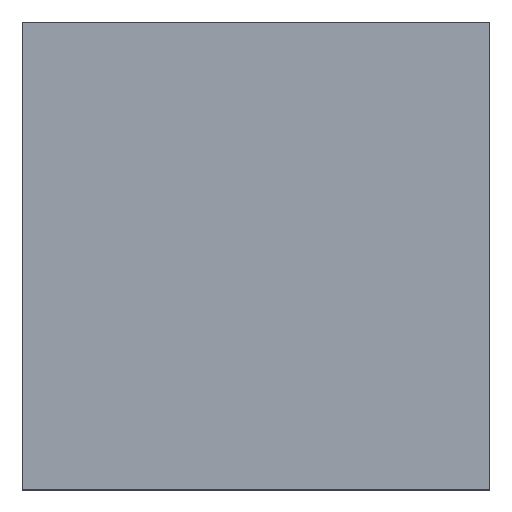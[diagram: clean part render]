
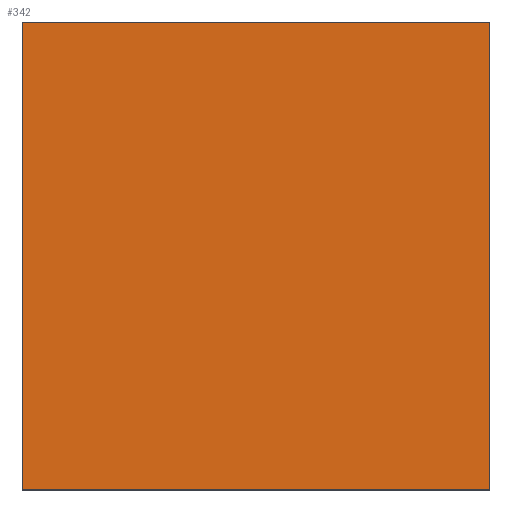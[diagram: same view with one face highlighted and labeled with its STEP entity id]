
A CAD part, top view. The second image highlights one B-rep face of the part: STEP entity #342.
In plain terms, the highlighted planar face has unit normal (0, 0, 1).
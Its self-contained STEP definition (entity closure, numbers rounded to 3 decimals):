
#15 = CARTESIAN_POINT ( 'NONE',  ( 17.5, 17.5, 10. ) ) ;
#24 = PLANE ( 'NONE',  #902 ) ;
#73 = CARTESIAN_POINT ( 'NONE',  ( -17.5, 17.5, 10. ) ) ;
#111 = CARTESIAN_POINT ( 'NONE',  ( 17.5, 17.5, 10. ) ) ;
#123 = VERTEX_POINT ( 'NONE', #229 ) ;
#134 = ORIENTED_EDGE ( 'NONE', *, *, #612, .T. ) ;
#154 = LINE ( 'NONE', #648, #728 ) ;
#207 = VERTEX_POINT ( 'NONE', #111 ) ;
#229 = CARTESIAN_POINT ( 'NONE',  ( 17.5, -17.5, 10. ) ) ;
#271 = VECTOR ( 'NONE', #399, 1000. ) ;
#276 = ORIENTED_EDGE ( 'NONE', *, *, #510, .T. ) ;
#295 = DIRECTION ( 'NONE',  ( 0., 1., 0. ) ) ;
#325 = CARTESIAN_POINT ( 'NONE',  ( -17.5, 17.5, 10. ) ) ;
#342 = ADVANCED_FACE ( 'NONE', ( #374 ), #24, .T. ) ;
#343 = DIRECTION ( 'NONE',  ( 1., 0., 0. ) ) ;
#374 = FACE_OUTER_BOUND ( 'NONE', #799, .T. ) ;
#381 = CARTESIAN_POINT ( 'NONE',  ( -17.5, -17.5, 10. ) ) ;
#399 = DIRECTION ( 'NONE',  ( 0., -1., 0. ) ) ;
#495 = CARTESIAN_POINT ( 'NONE',  ( -17.5, -17.5, 10. ) ) ;
#510 = EDGE_CURVE ( 'NONE', #764, #833, #678, .T. ) ;
#523 = CARTESIAN_POINT ( 'NONE',  ( 0., 0., 10. ) ) ;
#590 = DIRECTION ( 'NONE',  ( -1., 0., 0. ) ) ;
#600 = VECTOR ( 'NONE', #343, 1000. ) ;
#612 = EDGE_CURVE ( 'NONE', #833, #123, #832, .T. ) ;
#648 = CARTESIAN_POINT ( 'NONE',  ( -17.5, 17.5, 10. ) ) ;
#658 = LINE ( 'NONE', #15, #672 ) ;
#672 = VECTOR ( 'NONE', #295, 1000. ) ;
#678 = LINE ( 'NONE', #325, #271 ) ;
#682 = EDGE_CURVE ( 'NONE', #207, #764, #154, .T. ) ;
#728 = VECTOR ( 'NONE', #590, 1000. ) ;
#731 = ORIENTED_EDGE ( 'NONE', *, *, #753, .T. ) ;
#753 = EDGE_CURVE ( 'NONE', #123, #207, #658, .T. ) ;
#764 = VERTEX_POINT ( 'NONE', #73 ) ;
#776 = ORIENTED_EDGE ( 'NONE', *, *, #682, .T. ) ;
#799 = EDGE_LOOP ( 'NONE', ( #276, #134, #731, #776 ) ) ;
#804 = DIRECTION ( 'NONE',  ( 0., 0., 1. ) ) ;
#832 = LINE ( 'NONE', #495, #600 ) ;
#833 = VERTEX_POINT ( 'NONE', #381 ) ;
#859 = DIRECTION ( 'NONE',  ( 1., 0., 0. ) ) ;
#902 = AXIS2_PLACEMENT_3D ( 'NONE', #523, #804, #859 ) ;
